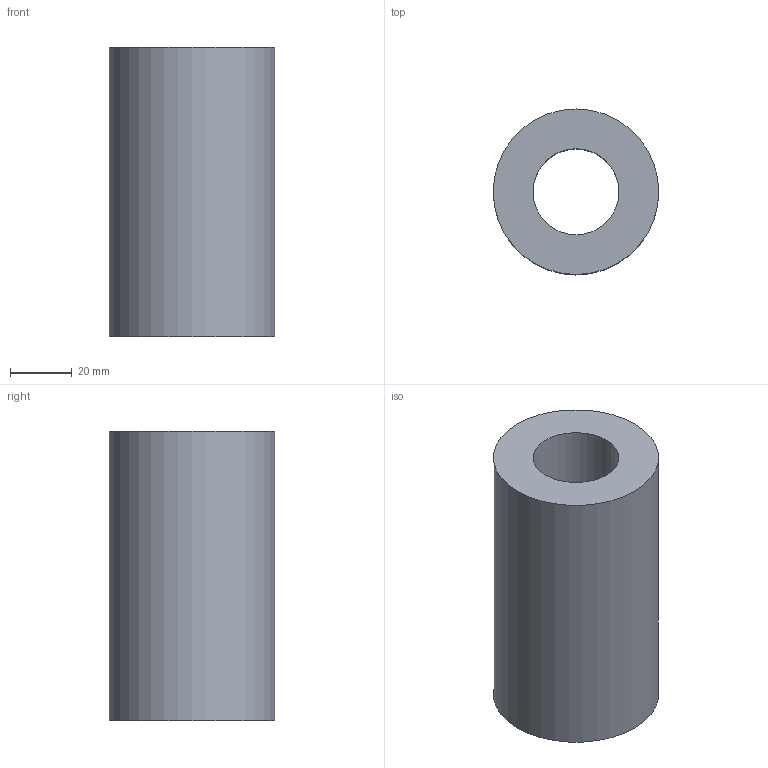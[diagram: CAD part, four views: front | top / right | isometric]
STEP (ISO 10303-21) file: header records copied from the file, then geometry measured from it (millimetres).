
FILE_DESCRIPTION(('Mechanical CAD reference from nasji.com'),'2;1');
FILE_NAME('NASJI.step','',(''),(''),'','NASJI distribution','');
FILE_SCHEMA(('AUTOMOTIVE_DESIGN { 1 0 10303 214 1 1 1 1 }'));
Length unit declared in the file: millimetre
Products named in the file (1): Open CASCADE STEP translator 7.8 85
Bounding box: 53.72 x 53.72 x 94.1 mm (x, y, z)
Volume: 155751.5 mm3; surface area: 27439.2 mm2
Topology: 1 solids, 1 shells, 4 faces, 6 edges, 4 vertices
Faces by surface type: plane 2, cylinder 2
Full cylindrical faces by diameter (mm): 27.9 x1, 53.72 x1
Entity records: 186 total; most frequent: DIRECTION 32, CARTESIAN_POINT 27, ORIENTED_EDGE 12, PCURVE 12, DEFINITIONAL_REPRESENTATION 12, LINE 10, VECTOR 10, AXIS2_PLACEMENT_3D 9
